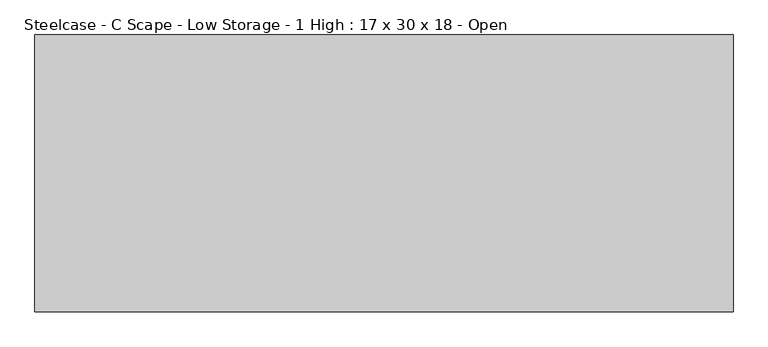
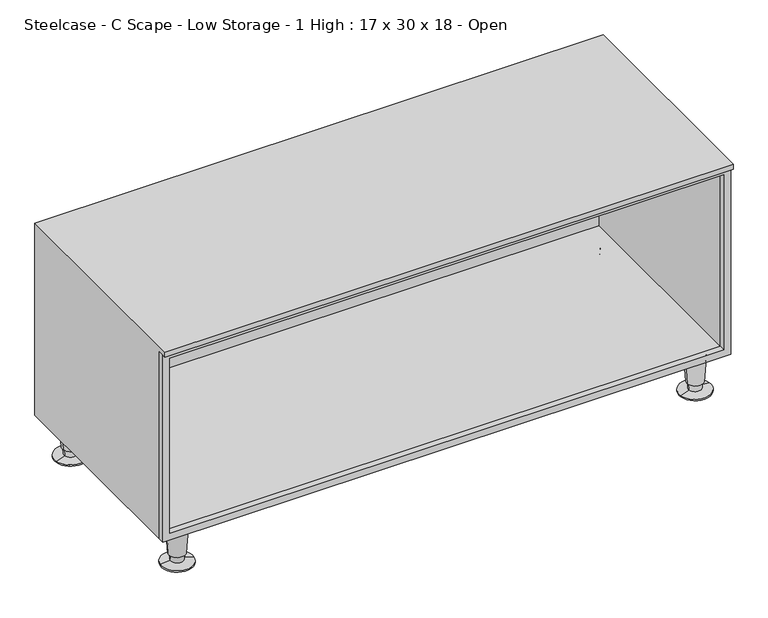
"""IFC4 building model written with IfcOpenShell, lengths in millimetres: furniture geometry, Steelcase - C Scape - Low Storage - 1 High : 17 x 30 x 18 - Open."""

import ifcopenshell
import ifcopenshell.guid

model = None  # the IFC model being written
_history = None  # IfcOwnerHistory: only IFC2X3 demands one
_inside = {}  # id of a spatial element -> (the spatial element, [elements in it])
_under = {}  # id of a project, library or spatial element -> (it, [spatial elements below it])
_declared = {}  # id of a project -> (the project, [libraries it declares])
_typed = {}  # id of a type object -> (the type object, [elements of that type])
_made_of = {}  # id of a material, layer set ... -> (it, [elements and type objects made of it])


def new_model(schema):
    """Start an empty IFC model of exactly this schema.

    Asked for "IFC4X3", IfcOpenShell would pick the latest addendum, in which some entities
    have other attributes; the version numbers below select the first issue.
    IFC2X3 requires an IfcOwnerHistory on every rooted entity: one is made here for all.
    """
    global model, _history
    if schema == "IFC4X3":
        model = ifcopenshell.file(schema_version=(4, 3, 0, 0))
    else:
        model = ifcopenshell.file(schema=schema)
    _inside.clear()
    _under.clear()
    _declared.clear()
    _typed.clear()
    _made_of.clear()
    _history = None
    if model.schema == "IFC2X3":
        org = make("IfcOrganization", Name="unknown")
        user = make(
            "IfcPersonAndOrganization",
            ThePerson=make("IfcPerson", FamilyName="unknown"),
            TheOrganization=org,
        )
        app = make(
            "IfcApplication",
            ApplicationDeveloper=org,
            Version="unknown",
            ApplicationFullName="unknown",
            ApplicationIdentifier="unknown",
        )
        _history = make(
            "IfcOwnerHistory",
            OwningUser=user,
            OwningApplication=app,
            ChangeAction="ADDED",
            CreationDate=0,
        )
    return model


def make(cls, **values):
    """One entity of the class cls with the attributes given. An attribute that is None is left unset."""
    return model.create_entity(
        cls, **{name: value for name, value in values.items() if value is not None}
    )


def rooted(cls, **values):
    """An entity with a GlobalId (a new one), such as an element, a storey or a relation."""
    return make(cls, GlobalId=ifcopenshell.guid.new(), OwnerHistory=_history, **values)


def si_unit(unit_type, name, prefix=None):
    """IfcSIUnit, for example si_unit("LENGTHUNIT", "METRE", prefix="MILLI")."""
    return make("IfcSIUnit", UnitType=unit_type, Prefix=prefix, Name=name)


def assignment(units):
    """IfcUnitAssignment: the units of a project."""
    return None if units is None else make("IfcUnitAssignment", Units=units)


def point(xyz):
    """IfcCartesianPoint."""
    return None if xyz is None else make("IfcCartesianPoint", Coordinates=xyz)


def direction(xyz):
    """IfcDirection."""
    return None if xyz is None else make("IfcDirection", DirectionRatios=xyz)


def frame(location, z_axis=None, x_axis=None):
    """IfcAxis2Placement3D, a coordinate frame: its origin and axes. An axis left out is left unset."""
    return make(
        "IfcAxis2Placement3D",
        Location=point(location),
        Axis=direction(z_axis),
        RefDirection=direction(x_axis),
    )


def origin():
    """The frame at (0, 0, 0) with its axes left unset."""
    return frame((0.0, 0.0, 0.0))


def place(relative_to, where):
    """IfcLocalPlacement: puts the frame where relative to a parent placement (None: the world)."""
    return make(
        "IfcLocalPlacement", PlacementRelTo=relative_to, RelativePlacement=where
    )


def context(
    kind, dimensions, precision=None, world=None, true_north=None, identifier=None
):
    """IfcGeometricRepresentationContext, for example the 3D "Model" context."""
    return make(
        "IfcGeometricRepresentationContext",
        ContextIdentifier=identifier,
        ContextType=kind,
        CoordinateSpaceDimension=dimensions,
        Precision=precision,
        WorldCoordinateSystem=world,
        TrueNorth=true_north,
    )


def project(units=None, contexts=None):
    """IfcProject with its units and contexts."""
    return rooted(
        "IfcProject",
        Name="project",
        RepresentationContexts=contexts,
        UnitsInContext=assignment(units),
    )


def spatial(cls, under=None, at=None, **own):
    """A site, building, storey or space (cls), placed at a placement, below another one or the project."""
    s = rooted(cls, ObjectPlacement=at, **own)
    if under is not None:
        _under.setdefault(under.id(), (under, []))[1].append(s)
    return s


def polyline(points):
    """IfcPolyline through the points."""
    return make("IfcPolyline", Points=[point(p) for p in points])


def circle_curve(where, radius):
    """IfcCircle in the frame where."""
    return make("IfcCircle", Position=where, Radius=radius)


def outline(outer, holes=None, kind="AREA"):
    """IfcArbitraryClosedProfileDef: a profile drawn as a closed curve; with holes, ...WithVoids."""
    if holes is None:
        return make("IfcArbitraryClosedProfileDef", ProfileType=kind, OuterCurve=outer)
    return make(
        "IfcArbitraryProfileDefWithVoids",
        ProfileType=kind,
        OuterCurve=outer,
        InnerCurves=holes,
    )


def extrude(swept, where, along, depth):
    """IfcExtrudedAreaSolid: the profile swept, set in the frame where, extruded along a direction by depth."""
    return make(
        "IfcExtrudedAreaSolid",
        SweptArea=swept,
        Position=where,
        ExtrudedDirection=direction(along),
        Depth=depth,
    )


def faces_of(points, faces, orient=None, outer=None):
    """IfcFace entities. A face is a list of loops; a loop is a list of indices into points, from 0.

    orient and outer hold one flag for each loop. By default every Orientation is true, the
    first loop of a face is its IfcFaceOuterBound and the others are IfcFaceBound.
    """
    made = []
    for i, loops in enumerate(faces):
        bounds = []
        for j, loop in enumerate(loops):
            is_outer = j == 0 if outer is None else outer[i][j]
            bounds.append(
                make(
                    "IfcFaceOuterBound" if is_outer else "IfcFaceBound",
                    Bound=make("IfcPolyLoop", Polygon=[points[k] for k in loop]),
                    Orientation=True if orient is None else orient[i][j],
                )
            )
        made.append(make("IfcFace", Bounds=bounds))
    return made


def faceted_brep(points, faces, orient=None, outer=None, voids=None):
    """IfcFacetedBrep: a solid bounded by flat faces; with voids (closed shells), ...WithVoids."""
    shared = [point(p) for p in points]
    hull = make("IfcClosedShell", CfsFaces=faces_of(shared, faces, orient, outer))
    if voids is None:
        return make("IfcFacetedBrep", Outer=hull)
    return make(
        "IfcFacetedBrepWithVoids",
        Outer=hull,
        Voids=[
            make(cls, CfsFaces=faces_of(shared, fs, o, b)) for cls, fs, o, b in voids
        ],
    )


def shape(context_of_items, identifier, shape_type, items):
    """IfcShapeRepresentation: the items that make up one representation, for example the "Body"."""
    return make(
        "IfcShapeRepresentation",
        ContextOfItems=context_of_items,
        RepresentationIdentifier=identifier,
        RepresentationType=shape_type,
        Items=items,
    )


def source(mapping_origin, context_of_items, identifier, shape_type, items):
    """IfcRepresentationMap: a shape defined once, which mapped items show again and again."""
    return make(
        "IfcRepresentationMap",
        MappingOrigin=mapping_origin,
        MappedRepresentation=shape(context_of_items, identifier, shape_type, items),
    )


def transform(
    local_origin,
    x_axis=None,
    y_axis=None,
    z_axis=None,
    scale=None,
    scale2=None,
    scale3=None,
    uniform=True,
):
    """IfcCartesianTransformationOperator3D, or its non-uniform kind. x_axis, y_axis, z_axis: its Axis1, 2, 3."""
    if uniform:
        return make(
            "IfcCartesianTransformationOperator3D",
            Axis1=direction(x_axis),
            Axis2=direction(y_axis),
            LocalOrigin=point(local_origin),
            Scale=scale,
            Axis3=direction(z_axis),
        )
    return make(
        "IfcCartesianTransformationOperator3DnonUniform",
        Axis1=direction(x_axis),
        Axis2=direction(y_axis),
        LocalOrigin=point(local_origin),
        Scale=scale,
        Axis3=direction(z_axis),
        Scale2=scale2,
        Scale3=scale3,
    )


def mapped(mapping_source, mapping_target):
    """IfcMappedItem: shows the shape of a source again, moved by a transform."""
    return make(
        "IfcMappedItem", MappingSource=mapping_source, MappingTarget=mapping_target
    )


def made_of(thing, what):
    """Note that an element or type object is made of a material, layer set ...; save() writes the relation."""
    if what is not None:
        _made_of.setdefault(what.id(), (what, []))[1].append(thing)
    return thing


def element(
    cls,
    number,
    at=None,
    inside=None,
    cuts=None,
    type_object=None,
    material=None,
    context=None,
    identifier="Body",
    shape_type=None,
    held_by="IfcProductDefinitionShape",
    body=None,
    shapes=None,
    **own,
):
    """One element of the class cls, such as IfcWall. Its Tag is "e" and its number.

    at: its placement. inside: the storey or other place that contains it. cuts: it is an
    opening in that element (IfcRelVoidsElement). A single representation is given by context,
    identifier, shape_type and body (its items); several are given by shapes. held_by: the class
    of the entity that holds the representations. save() writes the other relations.
    """
    e = rooted(cls, Tag="e%d" % number, ObjectPlacement=at, **own)
    if body is not None:
        shapes = [shape(context, identifier, shape_type, body)]
    if shapes is not None:
        e.Representation = make(held_by, Representations=shapes)
    if inside is not None:
        _inside.setdefault(inside.id(), (inside, []))[1].append(e)
    if cuts is not None:
        rooted(
            "IfcRelVoidsElement", RelatingBuildingElement=cuts, RelatedOpeningElement=e
        )
    if type_object is not None:
        _typed.setdefault(type_object.id(), (type_object, []))[1].append(e)
    return made_of(e, material)


def aggregate(whole, parts):
    """IfcRelAggregates: a whole, such as a stair, and the parts it consists of."""
    return rooted("IfcRelAggregates", RelatingObject=whole, RelatedObjects=parts)


def save(model, path):
    """Write the relations noted so far, then the file.

    IfcRelAggregates (storeys below a building ...), IfcRelContainedInSpatialStructure (elements
    in a storey), IfcRelDefinesByType, IfcRelAssociatesMaterial and IfcRelDeclares: one each for
    every whole, place, type object, material and project.
    """
    for whole, parts in _under.values():
        aggregate(whole, parts)
    for where, things in _inside.values():
        rooted(
            "IfcRelContainedInSpatialStructure",
            RelatedElements=things,
            RelatingStructure=where,
        )
    for kind, things in _typed.values():
        rooted("IfcRelDefinesByType", RelatedObjects=things, RelatingType=kind)
    for what, things in _made_of.values():
        rooted("IfcRelAssociatesMaterial", RelatedObjects=things, RelatingMaterial=what)
    for by, libraries in _declared.values():
        rooted("IfcRelDeclares", RelatingContext=by, RelatedDefinitions=libraries)
    model.write(path)


def plane_surface(at):
    """IfcPlane: the flat surface through the origin of the frame at, square to its z axis."""
    return make("IfcPlane", Position=at)


def cylinder_surface(at, radius):
    """IfcCylindricalSurface: all points at the distance radius from the z axis of the frame at."""
    return make("IfcCylindricalSurface", Position=at, Radius=radius)


def revolved_surface(curve, axis_point, axis_direction):
    """IfcSurfaceOfRevolution: the curve turned about the line through axis_point along axis_direction."""
    return make(
        "IfcSurfaceOfRevolution",
        SweptCurve=make("IfcArbitraryOpenProfileDef", ProfileType="CURVE", Curve=curve),
        AxisPosition=make("IfcAxis1Placement", Location=point(axis_point), Axis=direction(axis_direction)),
    )


def advanced_brep(points, edges, surfaces, faces):
    """IfcAdvancedBrep: a solid bounded by faces that lie on surfaces and meet in shared edges.

    An edge is (start, end): straight between two places in points (the first is 0);
    or (start, end, curve); or (start, end, curve, False) where it runs against its curve.
    A face is (place in surfaces, loops), or (place, loops, False) where it looks against
    its surface's normal. A loop lists edges by number (the first is 1), with a minus sign
    where the edge is run from its end to its start. The first loop is the outer one.
    """
    corners = [point(p) for p in points]
    vertices = [make("IfcVertexPoint", VertexGeometry=c) for c in corners]
    made = []
    for start, end, *more in edges:
        made.append(
            make(
                "IfcEdgeCurve",
                EdgeStart=vertices[start],
                EdgeEnd=vertices[end],
                EdgeGeometry=more[0] if more else make("IfcPolyline", Points=[corners[start], corners[end]]),
                SameSense=more[1] if len(more) > 1 else True,
            )
        )
    hull = []
    for where, loops, *sense in faces:
        bounds = []
        for j, loop in enumerate(loops):
            ring = [make("IfcOrientedEdge", EdgeElement=made[abs(k) - 1], Orientation=k > 0) for k in loop]
            bounds.append(
                make(
                    "IfcFaceOuterBound" if j == 0 else "IfcFaceBound",
                    Bound=make("IfcEdgeLoop", EdgeList=ring),
                    Orientation=True,
                )
            )
        hull.append(make("IfcAdvancedFace", Bounds=bounds, FaceSurface=surfaces[where], SameSense=sense[0] if sense else True))
    return make("IfcAdvancedBrep", Outer=make("IfcClosedShell", CfsFaces=hull))


def steelcase_c_scape_low_storage_1_high_17_x_30_x_18_open_7eadd0b7(model_context):
    return source(origin(), model_context, "Body", "SolidModel", [
        advanced_brep(
        [(999.3527179, -383.7693967, 76.2), (1037.0144568, -378.0071556, 76.2), (1018.1835874, -380.8882761, 76.2), (1003.3030659, -383.164994, 19.05), (1033.0641088, -378.6115583, 19.05), (1005.7326529, -382.7932675, 19.05), (1030.6345219, -378.9832848, 19.05), (1006.4214224, -382.6878858, 5.7545598), (1029.9457524, -379.0886664, 5.7545598), (989.0725389, -385.3422628, 2.5119506), (1047.2946359, -376.4342895, 2.5119506), (989.0725389, -385.3422628, 0.0), (1047.2946359, -376.4342895, 0.0), (1018.1835874, -380.8882761, 0.0)],
        [
            (0, 1, circle_curve(frame((1018.1835874, -380.8882761, 76.2), z_axis=(0.0, 0.0, 1.0), x_axis=(0.0, 1.0, 0.0)), 19.05)),
            (1, 2),
            (2, 0),
            (1, 0, circle_curve(frame((1018.1835874, -380.8882761, 76.2), z_axis=(0.0, 0.0, 1.0), x_axis=(0.0, 1.0, 0.0)), 19.05)),
            (3, 4, circle_curve(frame((1018.1835874, -380.8882761, 19.05), z_axis=(0.0, 0.0, 1.0), x_axis=(0.0, 1.0, 0.0)), 15.0536827)),
            (4, 1),
            (0, 3),
            (4, 3, circle_curve(frame((1018.1835874, -380.8882761, 19.05), z_axis=(0.0, 0.0, 1.0), x_axis=(0.0, 1.0, 0.0)), 15.0536827)),
            (5, 6, circle_curve(frame((1018.1835874, -380.8882761, 19.05), z_axis=(0.0, 0.0, 1.0), x_axis=(0.0, 1.0, 0.0)), 12.5958232)),
            (6, 4),
            (3, 5),
            (6, 5, circle_curve(frame((1018.1835874, -380.8882761, 19.05), z_axis=(0.0, 0.0, 1.0), x_axis=(0.0, 1.0, 0.0)), 12.5958232)),
            (7, 8, circle_curve(frame((1018.1835874, -380.8882761, 5.7545598), z_axis=(0.0, 0.0, 1.0), x_axis=(0.0, 1.0, 0.0)), 11.8990387)),
            (8, 6),
            (5, 7),
            (8, 7, circle_curve(frame((1018.1835874, -380.8882761, 5.7545598), z_axis=(0.0, 0.0, 1.0), x_axis=(0.0, 1.0, 0.0)), 11.8990387)),
            (9, 10, circle_curve(frame((1018.1835874, -380.8882761, 2.5119506), z_axis=(0.0, 0.0, 1.0), x_axis=(0.0, 1.0, 0.0)), 29.4498071)),
            (10, 8),
            (7, 9),
            (10, 9, circle_curve(frame((1018.1835874, -380.8882761, 2.5119506), z_axis=(0.0, 0.0, 1.0), x_axis=(0.0, 1.0, 0.0)), 29.4498071)),
            (11, 12, circle_curve(frame((1018.1835874, -380.8882761, 0.0), z_axis=(0.0, 0.0, 1.0), x_axis=(0.0, 1.0, 0.0)), 29.4498071)),
            (12, 10),
            (9, 11),
            (12, 11, circle_curve(frame((1018.1835874, -380.8882761, 0.0), z_axis=(0.0, 0.0, 1.0), x_axis=(0.0, 1.0, 0.0)), 29.4498071)),
            (13, 12),
            (11, 13),
        ],
        [
            plane_surface(frame((1018.1835874, -380.8882761, 76.2), z_axis=(0.0, 0.0, 1.0), x_axis=(0.0, 1.0, 0.0))),
            revolved_surface(polyline([(1018.1835874, -361.8382761, 76.2), (1018.1835874, -365.8345934, 19.05)]), (1018.1835874, -380.8882761, 25.4), (0.0, 0.0, -1.0)),
            plane_surface(frame((1018.1835874, -380.8882761, 19.05), z_axis=(0.0, 0.0, -1.0), x_axis=(0.0, 1.0, 0.0))),
            revolved_surface(polyline([(1018.1835874, -368.292453, 19.05), (1018.1835874, -368.9892375, 5.7545598)]), (1018.1835874, -380.8882761, 25.4), (0.0, 0.0, -1.0)),
            revolved_surface(polyline([(1018.1835874, -368.9892375, 5.7545598), (1018.1835874, -351.438469, 2.5119506)]), (1018.1835874, -380.8882761, 25.4), (0.0, 0.0, -1.0)),
            cylinder_surface(frame((1018.1835874, -380.8882761, 25.4), z_axis=(0.0, 0.0, -1.0), x_axis=(0.0, 1.0, 0.0)), 29.4498071),
            plane_surface(frame((1018.1835874, -380.8882761, 0.0), z_axis=(0.0, 0.0, -1.0), x_axis=(0.0, 1.0, 0.0))),
        ],
        [
            (0, [[1, 2, 3]]),
            (0, [[4, -3, -2]]),
            (1, [[5, 6, -1, 7]]),
            (1, [[8, -7, -4, -6]]),
            (2, [[9, 10, -5, 11]]),
            (2, [[12, -11, -8, -10]]),
            (3, [[13, 14, -9, 15]]),
            (3, [[16, -15, -12, -14]]),
            (4, [[17, 18, -13, 19]]),
            (4, [[20, -19, -16, -18]]),
            (5, [[21, 22, -17, 23]]),
            (5, [[24, -23, -20, -22]]),
            (6, [[25, -21, 26]]),
            (6, [[-26, -24, -25]]),
        ],
    ),
        advanced_brep(
        [(75.8224611, -385.3422628, 0.0), (17.6003641, -376.4342895, 0.0), (46.7114126, -380.8882761, 0.0), (75.8224611, -385.3422628, 2.5119506), (17.6003641, -376.4342895, 2.5119506), (58.4735776, -382.6878858, 5.7545598), (34.9492476, -379.0886664, 5.7545598), (59.1623471, -382.7932675, 19.05), (34.2604781, -378.9832848, 19.05), (61.5919341, -383.164994, 19.05), (31.8308912, -378.6115583, 19.05), (65.5422821, -383.7693967, 76.2), (27.8805432, -378.0071556, 76.2), (46.7114126, -380.8882761, 76.2)],
        [
            (0, 1, circle_curve(frame((46.7114126, -380.8882761, 0.0), z_axis=(0.0, 0.0, -1.0), x_axis=(0.0, 1.0, 0.0)), 29.4498071)),
            (1, 2),
            (2, 0),
            (1, 0, circle_curve(frame((46.7114126, -380.8882761, 0.0), z_axis=(0.0, 0.0, -1.0), x_axis=(0.0, 1.0, 0.0)), 29.4498071)),
            (3, 4, circle_curve(frame((46.7114126, -380.8882761, 2.5119506), z_axis=(0.0, 0.0, -1.0), x_axis=(0.0, 1.0, 0.0)), 29.4498071)),
            (4, 1),
            (0, 3),
            (4, 3, circle_curve(frame((46.7114126, -380.8882761, 2.5119506), z_axis=(0.0, 0.0, -1.0), x_axis=(0.0, 1.0, 0.0)), 29.4498071)),
            (5, 6, circle_curve(frame((46.7114126, -380.8882761, 5.7545598), z_axis=(0.0, 0.0, -1.0), x_axis=(0.0, 1.0, 0.0)), 11.8990387)),
            (6, 4),
            (3, 5),
            (6, 5, circle_curve(frame((46.7114126, -380.8882761, 5.7545598), z_axis=(0.0, 0.0, -1.0), x_axis=(0.0, 1.0, 0.0)), 11.8990387)),
            (7, 8, circle_curve(frame((46.7114126, -380.8882761, 19.05), z_axis=(0.0, 0.0, -1.0), x_axis=(0.0, 1.0, 0.0)), 12.5958232)),
            (8, 6),
            (5, 7),
            (8, 7, circle_curve(frame((46.7114126, -380.8882761, 19.05), z_axis=(0.0, 0.0, -1.0), x_axis=(0.0, 1.0, 0.0)), 12.5958232)),
            (9, 10, circle_curve(frame((46.7114126, -380.8882761, 19.05), z_axis=(0.0, 0.0, -1.0), x_axis=(0.0, 1.0, 0.0)), 15.0536827)),
            (10, 8),
            (7, 9),
            (10, 9, circle_curve(frame((46.7114126, -380.8882761, 19.05), z_axis=(0.0, 0.0, -1.0), x_axis=(0.0, 1.0, 0.0)), 15.0536827)),
            (11, 12, circle_curve(frame((46.7114126, -380.8882761, 76.2), z_axis=(0.0, 0.0, -1.0), x_axis=(0.0, 1.0, 0.0)), 19.05)),
            (12, 10),
            (9, 11),
            (12, 11, circle_curve(frame((46.7114126, -380.8882761, 76.2), z_axis=(0.0, 0.0, -1.0), x_axis=(0.0, 1.0, 0.0)), 19.05)),
            (13, 12),
            (11, 13),
        ],
        [
            plane_surface(frame((46.7114126, -380.8882761, 0.0), z_axis=(0.0, 0.0, -1.0), x_axis=(0.0, 1.0, 0.0))),
            cylinder_surface(frame((46.7114126, -380.8882761, 25.4), z_axis=(0.0, 0.0, 1.0), x_axis=(0.0, 1.0, 0.0)), 29.4498071),
            revolved_surface(polyline([(46.7114126, -351.438469, 2.5119506), (46.7114126, -368.9892375, 5.7545598)]), (46.7114126, -380.8882761, 25.4), (0.0, 0.0, 1.0)),
            revolved_surface(polyline([(46.7114126, -368.9892375, 5.7545598), (46.7114126, -368.292453, 19.05)]), (46.7114126, -380.8882761, 25.4), (0.0, 0.0, 1.0)),
            plane_surface(frame((46.7114126, -380.8882761, 19.05), z_axis=(0.0, 0.0, -1.0), x_axis=(0.0, 1.0, 0.0))),
            revolved_surface(polyline([(46.7114126, -365.8345934, 19.05), (46.7114126, -361.8382761, 76.2)]), (46.7114126, -380.8882761, 25.4), (0.0, 0.0, 1.0)),
            plane_surface(frame((46.7114126, -380.8882761, 76.2), z_axis=(0.0, 0.0, 1.0), x_axis=(0.0, 1.0, 0.0))),
        ],
        [
            (0, [[1, 2, 3]]),
            (0, [[4, -3, -2]]),
            (1, [[5, 6, -1, 7]]),
            (1, [[8, -7, -4, -6]]),
            (2, [[9, 10, -5, 11]]),
            (2, [[12, -11, -8, -10]]),
            (3, [[13, 14, -9, 15]]),
            (3, [[16, -15, -12, -14]]),
            (4, [[17, 18, -13, 19]]),
            (4, [[20, -19, -16, -18]]),
            (5, [[21, 22, -17, 23]]),
            (5, [[24, -23, -20, -22]]),
            (6, [[25, -21, 26]]),
            (6, [[-26, -24, -25]]),
        ],
    ),
        extrude(outline(polyline([(76.2, 0.0), (76.2, 1065.53), (447.0400097, 1065.53), (447.0400097, 0.0), (76.2, 0.0)]), holes=[polyline([(436.2449927, 13.4770391), (436.2449927, 1052.1950775), (89.5349964, 1052.1950775), (89.5349964, 13.4770391), (436.2449927, 13.4770391)])]), frame((0.0, -415.2912402, 0.0), z_axis=(0.0, 1.0, 0.0), x_axis=(0.0, 0.0, 1.0)), (0.0, 0.0, 1.0), 11.4256592),
        advanced_brep(
        [(1038.2598695, -31.5218435, 76.2), (1000.5981305, -37.2840847, 76.2), (1019.429, -34.4029641, 76.2), (1034.3095214, -32.1262463, 19.05), (1004.5484786, -36.6796819, 19.05), (1031.8799345, -32.4979728, 19.05), (1006.9780655, -36.3079555, 19.05), (1031.191165, -32.6033544, 5.7545598), (1007.666835, -36.2025738, 5.7545598), (1048.5400485, -29.9489775, 2.5119506), (990.3179515, -38.8569507, 2.5119506), (1048.5400485, -29.9489775, 0.0), (990.3179515, -38.8569507, 0.0), (1019.429, -34.4029641, 0.0)],
        [
            (0, 1, circle_curve(frame((1019.429, -34.4029641, 76.2), z_axis=(0.0, 0.0, 1.0), x_axis=(0.0, -1.0, 0.0)), 19.05)),
            (1, 2),
            (2, 0),
            (1, 0, circle_curve(frame((1019.429, -34.4029641, 76.2), z_axis=(0.0, 0.0, 1.0), x_axis=(0.0, -1.0, 0.0)), 19.05)),
            (3, 4, circle_curve(frame((1019.429, -34.4029641, 19.05), z_axis=(0.0, 0.0, 1.0), x_axis=(0.0, -1.0, 0.0)), 15.0536827)),
            (4, 1),
            (0, 3),
            (4, 3, circle_curve(frame((1019.429, -34.4029641, 19.05), z_axis=(0.0, 0.0, 1.0), x_axis=(0.0, -1.0, 0.0)), 15.0536827)),
            (5, 6, circle_curve(frame((1019.429, -34.4029641, 19.05), z_axis=(0.0, 0.0, 1.0), x_axis=(0.0, -1.0, 0.0)), 12.5958232)),
            (6, 4),
            (3, 5),
            (6, 5, circle_curve(frame((1019.429, -34.4029641, 19.05), z_axis=(0.0, 0.0, 1.0), x_axis=(0.0, -1.0, 0.0)), 12.5958232)),
            (7, 8, circle_curve(frame((1019.429, -34.4029641, 5.7545598), z_axis=(0.0, 0.0, 1.0), x_axis=(0.0, -1.0, 0.0)), 11.8990387)),
            (8, 6),
            (5, 7),
            (8, 7, circle_curve(frame((1019.429, -34.4029641, 5.7545598), z_axis=(0.0, 0.0, 1.0), x_axis=(0.0, -1.0, 0.0)), 11.8990387)),
            (9, 10, circle_curve(frame((1019.429, -34.4029641, 2.5119506), z_axis=(0.0, 0.0, 1.0), x_axis=(0.0, -1.0, 0.0)), 29.4498071)),
            (10, 8),
            (7, 9),
            (10, 9, circle_curve(frame((1019.429, -34.4029641, 2.5119506), z_axis=(0.0, 0.0, 1.0), x_axis=(0.0, -1.0, 0.0)), 29.4498071)),
            (11, 12, circle_curve(frame((1019.429, -34.4029641, 0.0), z_axis=(0.0, 0.0, 1.0), x_axis=(0.0, -1.0, 0.0)), 29.4498071)),
            (12, 10),
            (9, 11),
            (12, 11, circle_curve(frame((1019.429, -34.4029641, 0.0), z_axis=(0.0, 0.0, 1.0), x_axis=(0.0, -1.0, 0.0)), 29.4498071)),
            (13, 12),
            (11, 13),
        ],
        [
            plane_surface(frame((1019.429, -34.4029641, 76.2), z_axis=(0.0, 0.0, 1.0), x_axis=(0.0, -1.0, 0.0))),
            revolved_surface(polyline([(1019.429, -53.4529641, 76.2), (1019.429, -49.4566468, 19.05)]), (1019.429, -34.4029641, 25.4), (0.0, 0.0, -1.0)),
            plane_surface(frame((1019.429, -34.4029641, 19.05), z_axis=(0.0, 0.0, -1.0), x_axis=(0.0, -1.0, 0.0))),
            revolved_surface(polyline([(1019.429, -46.9987873, 19.05), (1019.429, -46.3020028, 5.7545598)]), (1019.429, -34.4029641, 25.4), (0.0, 0.0, -1.0)),
            revolved_surface(polyline([(1019.429, -46.3020028, 5.7545598), (1019.429, -63.8527712, 2.5119506)]), (1019.429, -34.4029641, 25.4), (0.0, 0.0, -1.0)),
            cylinder_surface(frame((1019.429, -34.4029641, 25.4), z_axis=(0.0, 0.0, -1.0), x_axis=(0.0, -1.0, 0.0)), 29.4498071),
            plane_surface(frame((1019.429, -34.4029641, 0.0), z_axis=(0.0, 0.0, -1.0), x_axis=(0.0, -1.0, 0.0))),
        ],
        [
            (0, [[1, 2, 3]]),
            (0, [[4, -3, -2]]),
            (1, [[5, 6, -1, 7]]),
            (1, [[8, -7, -4, -6]]),
            (2, [[9, 10, -5, 11]]),
            (2, [[12, -11, -8, -10]]),
            (3, [[13, 14, -9, 15]]),
            (3, [[16, -15, -12, -14]]),
            (4, [[17, 18, -13, 19]]),
            (4, [[20, -19, -16, -18]]),
            (5, [[21, 22, -17, 23]]),
            (5, [[24, -23, -20, -22]]),
            (6, [[25, -21, 26]]),
            (6, [[-26, -24, -25]]),
        ],
    ),
        advanced_brep(
        [(65.5422821, -31.5218435, 76.2), (27.8805432, -37.2840847, 76.2), (46.7114126, -34.4029641, 76.2), (61.5919341, -32.1262463, 19.05), (31.8308912, -36.6796819, 19.05), (59.1623471, -32.4979728, 19.05), (34.2604781, -36.3079555, 19.05), (58.4735776, -32.6033544, 5.7545598), (34.9492476, -36.2025738, 5.7545598), (75.8224611, -29.9489775, 2.5119506), (17.6003641, -38.8569507, 2.5119506), (75.8224611, -29.9489775, 0.0), (17.6003641, -38.8569507, 0.0), (46.7114126, -34.4029641, 0.0)],
        [
            (0, 1, circle_curve(frame((46.7114126, -34.4029641, 76.2), z_axis=(0.0, 0.0, 1.0), x_axis=(0.0, -1.0, 0.0)), 19.05)),
            (1, 2),
            (2, 0),
            (1, 0, circle_curve(frame((46.7114126, -34.4029641, 76.2), z_axis=(0.0, 0.0, 1.0), x_axis=(0.0, -1.0, 0.0)), 19.05)),
            (3, 4, circle_curve(frame((46.7114126, -34.4029641, 19.05), z_axis=(0.0, 0.0, 1.0), x_axis=(0.0, -1.0, 0.0)), 15.0536827)),
            (4, 1),
            (0, 3),
            (4, 3, circle_curve(frame((46.7114126, -34.4029641, 19.05), z_axis=(0.0, 0.0, 1.0), x_axis=(0.0, -1.0, 0.0)), 15.0536827)),
            (5, 6, circle_curve(frame((46.7114126, -34.4029641, 19.05), z_axis=(0.0, 0.0, 1.0), x_axis=(0.0, -1.0, 0.0)), 12.5958232)),
            (6, 4),
            (3, 5),
            (6, 5, circle_curve(frame((46.7114126, -34.4029641, 19.05), z_axis=(0.0, 0.0, 1.0), x_axis=(0.0, -1.0, 0.0)), 12.5958232)),
            (7, 8, circle_curve(frame((46.7114126, -34.4029641, 5.7545598), z_axis=(0.0, 0.0, 1.0), x_axis=(0.0, -1.0, 0.0)), 11.8990387)),
            (8, 6),
            (5, 7),
            (8, 7, circle_curve(frame((46.7114126, -34.4029641, 5.7545598), z_axis=(0.0, 0.0, 1.0), x_axis=(0.0, -1.0, 0.0)), 11.8990387)),
            (9, 10, circle_curve(frame((46.7114126, -34.4029641, 2.5119506), z_axis=(0.0, 0.0, 1.0), x_axis=(0.0, -1.0, 0.0)), 29.4498071)),
            (10, 8),
            (7, 9),
            (10, 9, circle_curve(frame((46.7114126, -34.4029641, 2.5119506), z_axis=(0.0, 0.0, 1.0), x_axis=(0.0, -1.0, 0.0)), 29.4498071)),
            (11, 12, circle_curve(frame((46.7114126, -34.4029641, 0.0), z_axis=(0.0, 0.0, 1.0), x_axis=(0.0, -1.0, 0.0)), 29.4498071)),
            (12, 10),
            (9, 11),
            (12, 11, circle_curve(frame((46.7114126, -34.4029641, 0.0), z_axis=(0.0, 0.0, 1.0), x_axis=(0.0, -1.0, 0.0)), 29.4498071)),
            (13, 12),
            (11, 13),
        ],
        [
            plane_surface(frame((46.7114126, -34.4029641, 76.2), z_axis=(0.0, 0.0, 1.0), x_axis=(0.0, -1.0, 0.0))),
            revolved_surface(polyline([(46.7114126, -53.4529641, 76.2), (46.7114126, -49.4566468, 19.05)]), (46.7114126, -34.4029641, 25.4), (0.0, 0.0, -1.0)),
            plane_surface(frame((46.7114126, -34.4029641, 19.05), z_axis=(0.0, 0.0, -1.0), x_axis=(0.0, -1.0, 0.0))),
            revolved_surface(polyline([(46.7114126, -46.9987873, 19.05), (46.7114126, -46.3020028, 5.7545598)]), (46.7114126, -34.4029641, 25.4), (0.0, 0.0, -1.0)),
            revolved_surface(polyline([(46.7114126, -46.3020028, 5.7545598), (46.7114126, -63.8527712, 2.5119506)]), (46.7114126, -34.4029641, 25.4), (0.0, 0.0, -1.0)),
            cylinder_surface(frame((46.7114126, -34.4029641, 25.4), z_axis=(0.0, 0.0, -1.0), x_axis=(0.0, -1.0, 0.0)), 29.4498071),
            plane_surface(frame((46.7114126, -34.4029641, 0.0), z_axis=(0.0, 0.0, -1.0), x_axis=(0.0, -1.0, 0.0))),
        ],
        [
            (0, [[1, 2, 3]]),
            (0, [[4, -3, -2]]),
            (1, [[5, 6, -1, 7]]),
            (1, [[8, -7, -4, -6]]),
            (2, [[9, 10, -5, 11]]),
            (2, [[12, -11, -8, -10]]),
            (3, [[13, 14, -9, 15]]),
            (3, [[16, -15, -12, -14]]),
            (4, [[17, 18, -13, 19]]),
            (4, [[20, -19, -16, -18]]),
            (5, [[21, 22, -17, 23]]),
            (5, [[24, -23, -20, -22]]),
            (6, [[25, -21, 26]]),
            (6, [[-26, -24, -25]]),
        ],
    ),
        faceted_brep([(1065.53, 0.0, 457.2), (0.0, 0.0, 457.2), (0.0, -422.5288605, 457.2), (1065.53, -422.5288605, 457.2), (1065.53, -422.5288605, 447.0400097), (0.0, -422.5288605, 447.0400097), (0.0, -403.8655811, 447.0400097), (13.4770391, -403.8655811, 447.0400097), (13.4770391, -9.525, 447.0400097), (1052.1950775, -9.525, 447.0400097), (1052.1950775, -403.8655811, 447.0400097), (1065.53, -403.8655811, 447.0400097), (1065.53, 0.0, 76.2), (0.0, 0.0, 76.2), (0.0, -403.8655811, 76.2), (1065.53, -403.8655811, 76.2), (13.4770391, -403.8655811, 89.5349964), (13.4770391, -9.525, 89.5349964), (1052.1950775, -9.525, 89.5349964), (1052.1950775, -403.8655811, 89.5349964)], [[[0, 1, 2, 3]], [[4, 5, 6, 7, 8, 9, 10, 11]], [[1, 0, 12, 13]], [[2, 1, 13, 14, 6, 5]], [[3, 2, 5, 4]], [[0, 3, 4, 11, 15, 12]], [[8, 7, 16, 17]], [[9, 8, 17, 18]], [[10, 9, 18, 19]], [[16, 19, 18, 17]], [[14, 15, 11, 10, 19, 16, 7, 6]], [[12, 15, 14, 13]]]),
    ])


if __name__ == "__main__":
    model = new_model("IFC4")
    model_context = context("Model", 3, world=origin())
    ifc_project = project(units=[si_unit("LENGTHUNIT", "METRE", prefix="MILLI")], contexts=[model_context])
    site = spatial("IfcSite", under=ifc_project)
    building = spatial("IfcBuilding", under=site)
    placement = place(None, origin())
    steelcase_c_scape_low_storage_1_high_17_x_30_x_18_open_shape = steelcase_c_scape_low_storage_1_high_17_x_30_x_18_open_7eadd0b7(model_context)
    element("IfcFurniture", 1, ObjectType="Steelcase - C Scape - Low Storage - 1 High : 17 x 30 x 18 - Open", at=placement, inside=building, context=model_context, shape_type="MappedRepresentation", body=[
        mapped(steelcase_c_scape_low_storage_1_high_17_x_30_x_18_open_shape, transform((0.0, 0.0, 0.0), x_axis=(1.0, 0.0, 0.0), y_axis=(0.0, 1.0, 0.0), z_axis=(0.0, 0.0, 1.0))),
    ])
    save(model, "model.ifc")
